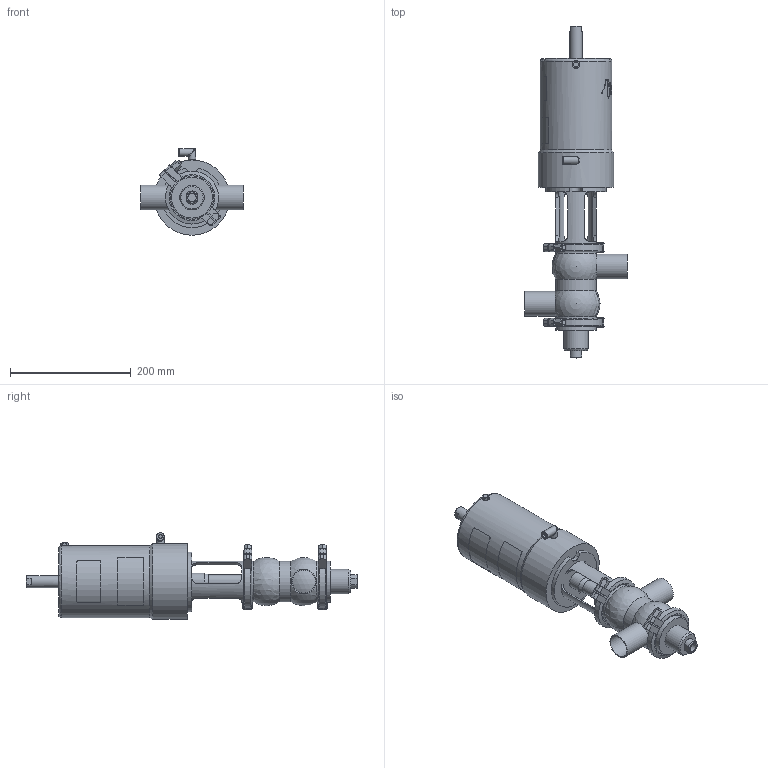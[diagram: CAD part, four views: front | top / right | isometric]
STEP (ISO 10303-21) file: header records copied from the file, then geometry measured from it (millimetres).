
FILE_DESCRIPTION (( 'STEP AP214' ), '1' );
FILE_NAME ('INNOVA S DC-180 W DIN 040_10.251.16.0009.STEP', '2024-08-20T10:23:29', ( '' ), ( '' ), 'SwSTEP 2.0', 'SolidWorks 2023', '' );
FILE_SCHEMA (( 'AUTOMOTIVE_DESIGN' ));
Length unit declared in the file: millimetre
Products named in the file (6): 10.251.15.0001_DN 040; 10.251.15.0002_DN 040; INNOVA S DC-180 W DIN 040_10.251.16.0009; 10.251.15.0011_DIN 040; 10.250.15.0002_Type S T1; 10.240.15.0001_DN 040
Assembly tree (6 placements, depth 2):
  INNOVA S DC-180 W DIN 040_10.251.16.0009
    10.251.15.0001_DN 040
    10.250.15.0002_Type S T1
    10.251.15.0011_DIN 040
    10.240.15.0001_DN 040  x2
    10.251.15.0002_DN 040
Bounding box: 170 x 551 x 143.5 mm (x, y, z)
Volume: 3355628.8 mm3; surface area: 276544.8 mm2
Topology: 6 solids, 6 shells, 421 faces, 1091 edges, 709 vertices
Faces by surface type: plane 201, cylinder 108, bspline 80, cone 27, sphere 4, torus 1
Full cylindrical faces by diameter (mm): 4.2 x2, 5 x1, 6 x1, 6.15 x1, 8 x4, 8.5 x1, 10.5 x2, 12.5 x6, 14 x1, 20 x1, 23 x1, 28 x1, 38 x2, 40.5 x1, 41 x2, 67.5 x3, 68 x2, 79.5 x4, 119.5 x1, 125 x1
Entity records: 21053 total; most frequent: CARTESIAN_POINT 11013, ORIENTED_EDGE 1720, DIRECTION 1339, EDGE_CURVE 860, VERTEX_POINT 588, AXIS2_PLACEMENT_3D 511, EDGE_LOOP 450, FACE_OUTER_BOUND 402
